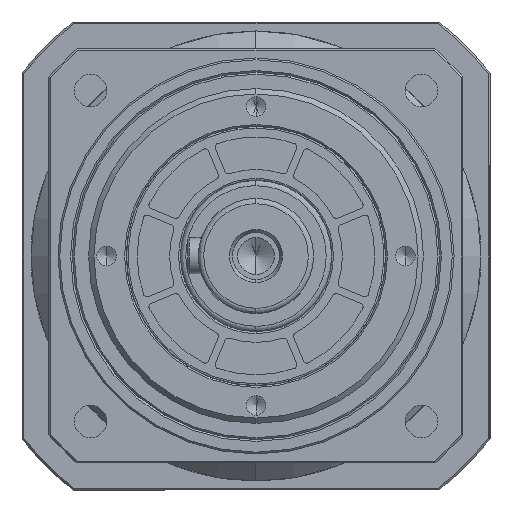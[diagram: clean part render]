
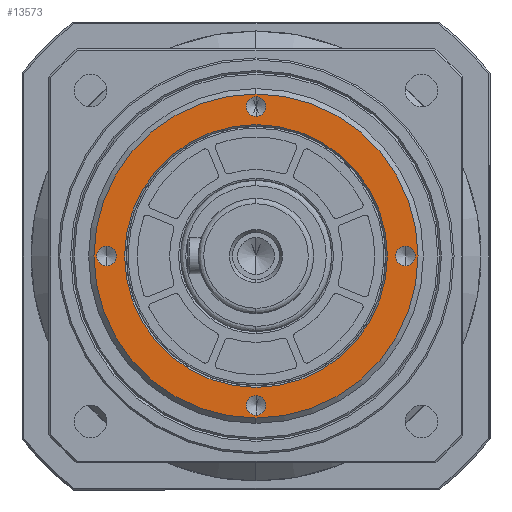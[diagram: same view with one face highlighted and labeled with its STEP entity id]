
A CAD part, left-side view. The second image highlights one B-rep face of the part: STEP entity #13573.
In plain terms, the highlighted planar face has unit normal (-1, 0, 0).
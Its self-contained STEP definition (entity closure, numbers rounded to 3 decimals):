
#310 = FACE_OUTER_BOUND ( 'NONE', #16574, .T. ) ;
#331 = CIRCLE ( 'NONE', #12235, 45. ) ;
#486 = AXIS2_PLACEMENT_3D ( 'NONE', #1928, #17687, #854 ) ;
#608 = ORIENTED_EDGE ( 'NONE', *, *, #16861, .F. ) ;
#743 = VERTEX_POINT ( 'NONE', #1609 ) ;
#854 = DIRECTION ( 'NONE',  ( 0., 0., 1. ) ) ;
#1082 = CIRCLE ( 'NONE', #486, 2.75 ) ;
#1190 = CARTESIAN_POINT ( 'NONE',  ( -1.5, 0., 44.252 ) ) ;
#1438 = EDGE_LOOP ( 'NONE', ( #8330, #15818 ) ) ;
#1609 = CARTESIAN_POINT ( 'NONE',  ( -1.5, -41.502, 2.75 ) ) ;
#1645 = EDGE_CURVE ( 'NONE', #14225, #5182, #14953, .T. ) ;
#1928 = CARTESIAN_POINT ( 'NONE',  ( -1.5, 41.502, 0. ) ) ;
#1950 = CARTESIAN_POINT ( 'NONE',  ( -1.5, 0., 38.752 ) ) ;
#2019 = CARTESIAN_POINT ( 'NONE',  ( -1.5, 0., 0. ) ) ;
#2200 = DIRECTION ( 'NONE',  ( -1., 0., 0. ) ) ;
#2276 = EDGE_LOOP ( 'NONE', ( #2747, #15313 ) ) ;
#2290 = CARTESIAN_POINT ( 'NONE',  ( -1.5, -41.502, 0. ) ) ;
#2446 = EDGE_CURVE ( 'NONE', #11409, #2605, #6787, .T. ) ;
#2561 = EDGE_CURVE ( 'NONE', #4237, #8456, #1082, .T. ) ;
#2595 = CARTESIAN_POINT ( 'NONE',  ( -1.5, 0., 0. ) ) ;
#2605 = VERTEX_POINT ( 'NONE', #13838 ) ;
#2747 = ORIENTED_EDGE ( 'NONE', *, *, #2446, .F. ) ;
#2779 = DIRECTION ( 'NONE',  ( 0., 0., -1. ) ) ;
#2883 = ORIENTED_EDGE ( 'NONE', *, *, #16789, .F. ) ;
#3141 = ORIENTED_EDGE ( 'NONE', *, *, #9672, .F. ) ;
#3193 = DIRECTION ( 'NONE',  ( -1., 0., 0. ) ) ;
#3302 = CIRCLE ( 'NONE', #11878, 2.75 ) ;
#3669 = EDGE_CURVE ( 'NONE', #2605, #11409, #9308, .T. ) ;
#3956 = CARTESIAN_POINT ( 'NONE',  ( -1.5, 0., -45. ) ) ;
#3991 = CARTESIAN_POINT ( 'NONE',  ( -1.5, 0., -38.752 ) ) ;
#4070 = DIRECTION ( 'NONE',  ( 0., 0., 1. ) ) ;
#4081 = CARTESIAN_POINT ( 'NONE',  ( -1.5, 0., -41.502 ) ) ;
#4237 = VERTEX_POINT ( 'NONE', #11151 ) ;
#4577 = DIRECTION ( 'NONE',  ( 1., 0., 0. ) ) ;
#4593 = EDGE_LOOP ( 'NONE', ( #11851, #7466 ) ) ;
#4736 = VERTEX_POINT ( 'NONE', #12195 ) ;
#5182 = VERTEX_POINT ( 'NONE', #8958 ) ;
#5400 = AXIS2_PLACEMENT_3D ( 'NONE', #11627, #3193, #13057 ) ;
#5497 = DIRECTION ( 'NONE',  ( 0., 0., -1. ) ) ;
#5582 = VERTEX_POINT ( 'NONE', #11327 ) ;
#5587 = DIRECTION ( 'NONE',  ( -1., 0., 0. ) ) ;
#6195 = DIRECTION ( 'NONE',  ( -1., 0., 0. ) ) ;
#6379 = DIRECTION ( 'NONE',  ( 0., -1., 0. ) ) ;
#6485 = CIRCLE ( 'NONE', #14467, 2.75 ) ;
#6515 = VERTEX_POINT ( 'NONE', #12783 ) ;
#6787 = CIRCLE ( 'NONE', #16240, 2.75 ) ;
#6941 = CARTESIAN_POINT ( 'NONE',  ( -1.5, 41.502, 0. ) ) ;
#7102 = CIRCLE ( 'NONE', #5400, 2.75 ) ;
#7145 = AXIS2_PLACEMENT_3D ( 'NONE', #11052, #10989, #12415 ) ;
#7147 = FACE_BOUND ( 'NONE', #14272, .T. ) ;
#7334 = AXIS2_PLACEMENT_3D ( 'NONE', #2290, #12137, #15015 ) ;
#7466 = ORIENTED_EDGE ( 'NONE', *, *, #15550, .F. ) ;
#7786 = VERTEX_POINT ( 'NONE', #1190 ) ;
#8259 = DIRECTION ( 'NONE',  ( -1., 0., 0. ) ) ;
#8330 = ORIENTED_EDGE ( 'NONE', *, *, #11369, .F. ) ;
#8379 = EDGE_CURVE ( 'NONE', #8456, #4237, #3302, .T. ) ;
#8456 = VERTEX_POINT ( 'NONE', #8658 ) ;
#8467 = FACE_BOUND ( 'NONE', #1438, .T. ) ;
#8540 = AXIS2_PLACEMENT_3D ( 'NONE', #8642, #4577, #14425 ) ;
#8642 = CARTESIAN_POINT ( 'NONE',  ( -1.5, 45., 0. ) ) ;
#8658 = CARTESIAN_POINT ( 'NONE',  ( -1.5, 41.502, 2.75 ) ) ;
#8958 = CARTESIAN_POINT ( 'NONE',  ( -1.5, 0., 45. ) ) ;
#9227 = DIRECTION ( 'NONE',  ( -1., 0., 0. ) ) ;
#9308 = CIRCLE ( 'NONE', #13883, 2.75 ) ;
#9619 = CARTESIAN_POINT ( 'NONE',  ( -1.5, 0., 41.502 ) ) ;
#9672 = EDGE_CURVE ( 'NONE', #11189, #7786, #7102, .T. ) ;
#9793 = EDGE_CURVE ( 'NONE', #6515, #743, #11824, .T. ) ;
#10020 = FACE_BOUND ( 'NONE', #11666, .T. ) ;
#10742 = ORIENTED_EDGE ( 'NONE', *, *, #2561, .F. ) ;
#10989 = DIRECTION ( 'NONE',  ( -1., 0., 0. ) ) ;
#11052 = CARTESIAN_POINT ( 'NONE',  ( -1.5, 0., 0. ) ) ;
#11089 = AXIS2_PLACEMENT_3D ( 'NONE', #17601, #2200, #12045 ) ;
#11151 = CARTESIAN_POINT ( 'NONE',  ( -1.5, 41.502, -2.75 ) ) ;
#11175 = DIRECTION ( 'NONE',  ( -1., 0., 0. ) ) ;
#11189 = VERTEX_POINT ( 'NONE', #1950 ) ;
#11327 = CARTESIAN_POINT ( 'NONE',  ( -1.5, 36.5, 0. ) ) ;
#11369 = EDGE_CURVE ( 'NONE', #743, #6515, #17925, .T. ) ;
#11409 = VERTEX_POINT ( 'NONE', #3991 ) ;
#11551 = FACE_BOUND ( 'NONE', #4593, .T. ) ;
#11627 = CARTESIAN_POINT ( 'NONE',  ( -1.5, 0., 41.502 ) ) ;
#11666 = EDGE_LOOP ( 'NONE', ( #2883, #3141 ) ) ;
#11778 = CIRCLE ( 'NONE', #14165, 36.5 ) ;
#11824 = CIRCLE ( 'NONE', #11089, 2.75 ) ;
#11851 = ORIENTED_EDGE ( 'NONE', *, *, #12336, .F. ) ;
#11878 = AXIS2_PLACEMENT_3D ( 'NONE', #6941, #5587, #12545 ) ;
#12045 = DIRECTION ( 'NONE',  ( 0., 0., 1. ) ) ;
#12137 = DIRECTION ( 'NONE',  ( -1., 0., 0. ) ) ;
#12195 = CARTESIAN_POINT ( 'NONE',  ( -1.5, -36.5, 0. ) ) ;
#12235 = AXIS2_PLACEMENT_3D ( 'NONE', #18190, #12527, #5497 ) ;
#12336 = EDGE_CURVE ( 'NONE', #4736, #5582, #11778, .T. ) ;
#12415 = DIRECTION ( 'NONE',  ( 0., -1., 0. ) ) ;
#12527 = DIRECTION ( 'NONE',  ( 1., 0., 0. ) ) ;
#12545 = DIRECTION ( 'NONE',  ( 0., 0., 1. ) ) ;
#12783 = CARTESIAN_POINT ( 'NONE',  ( -1.5, -41.502, -2.75 ) ) ;
#13057 = DIRECTION ( 'NONE',  ( 0., 0., 1. ) ) ;
#13318 = FACE_BOUND ( 'NONE', #2276, .T. ) ;
#13573 = ADVANCED_FACE ( 'NONE', ( #310, #11551, #13318, #8467, #10020, #7147 ), #14290, .F. ) ;
#13770 = ORIENTED_EDGE ( 'NONE', *, *, #8379, .F. ) ;
#13838 = CARTESIAN_POINT ( 'NONE',  ( -1.5, 0., -44.252 ) ) ;
#13883 = AXIS2_PLACEMENT_3D ( 'NONE', #4081, #11175, #18200 ) ;
#14165 = AXIS2_PLACEMENT_3D ( 'NONE', #2019, #6195, #6379 ) ;
#14225 = VERTEX_POINT ( 'NONE', #3956 ) ;
#14272 = EDGE_LOOP ( 'NONE', ( #13770, #10742 ) ) ;
#14290 = PLANE ( 'NONE',  #8540 ) ;
#14425 = DIRECTION ( 'NONE',  ( 0., 0., -1. ) ) ;
#14467 = AXIS2_PLACEMENT_3D ( 'NONE', #9619, #8259, #4070 ) ;
#14474 = AXIS2_PLACEMENT_3D ( 'NONE', #2595, #18185, #2779 ) ;
#14953 = CIRCLE ( 'NONE', #14474, 45. ) ;
#15015 = DIRECTION ( 'NONE',  ( 0., 0., 1. ) ) ;
#15313 = ORIENTED_EDGE ( 'NONE', *, *, #3669, .F. ) ;
#15550 = EDGE_CURVE ( 'NONE', #5582, #4736, #15872, .T. ) ;
#15818 = ORIENTED_EDGE ( 'NONE', *, *, #9793, .F. ) ;
#15872 = CIRCLE ( 'NONE', #7145, 36.5 ) ;
#16102 = ORIENTED_EDGE ( 'NONE', *, *, #1645, .F. ) ;
#16240 = AXIS2_PLACEMENT_3D ( 'NONE', #17833, #9227, #17603 ) ;
#16574 = EDGE_LOOP ( 'NONE', ( #16102, #608 ) ) ;
#16789 = EDGE_CURVE ( 'NONE', #7786, #11189, #6485, .T. ) ;
#16861 = EDGE_CURVE ( 'NONE', #5182, #14225, #331, .T. ) ;
#17601 = CARTESIAN_POINT ( 'NONE',  ( -1.5, -41.502, 0. ) ) ;
#17603 = DIRECTION ( 'NONE',  ( 0., 0., 1. ) ) ;
#17687 = DIRECTION ( 'NONE',  ( -1., 0., 0. ) ) ;
#17833 = CARTESIAN_POINT ( 'NONE',  ( -1.5, 0., -41.502 ) ) ;
#17925 = CIRCLE ( 'NONE', #7334, 2.75 ) ;
#18185 = DIRECTION ( 'NONE',  ( 1., 0., 0. ) ) ;
#18190 = CARTESIAN_POINT ( 'NONE',  ( -1.5, 0., 0. ) ) ;
#18200 = DIRECTION ( 'NONE',  ( 0., 0., 1. ) ) ;
